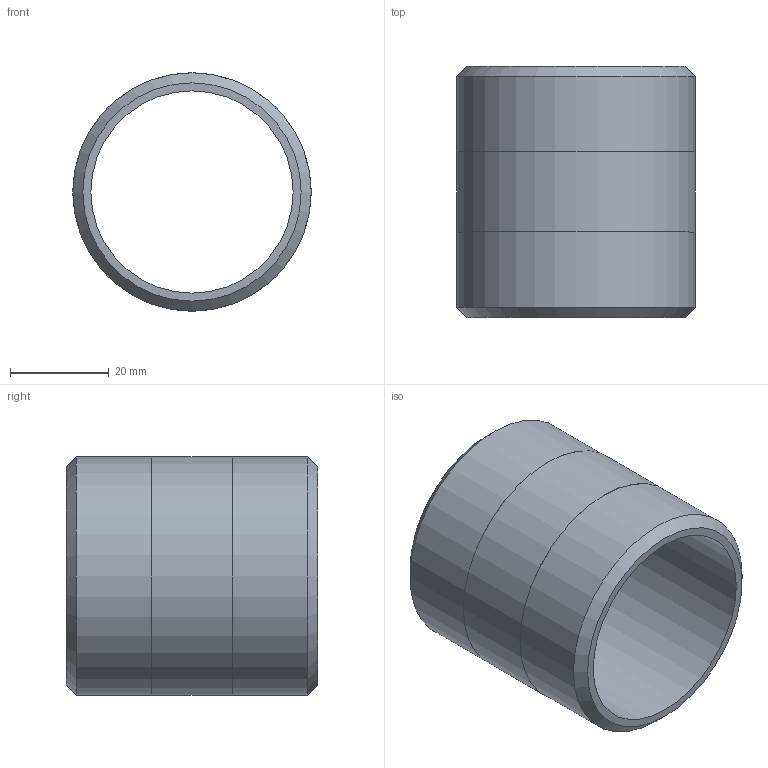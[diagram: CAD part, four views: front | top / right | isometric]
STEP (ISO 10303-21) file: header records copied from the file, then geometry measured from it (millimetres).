
FILE_DESCRIPTION(/* description */ (''),/* implementation_level */ '2;1');
FILE_NAME(/* name */ 'C:/Users/drich/Desktop/SSPN1-1_2-2 v2.step',/* time_stamp */ '2020-01-03T16:18:59-06:00',/* author */ (''),/* organization */ (''),/* preprocessor_version */ 'ST-DEVELOPER v18',/* originating_system */ 'Autodesk Translation Framework v8.12.0.6',/* authorisation */ '');
FILE_SCHEMA (('AUTOMOTIVE_DESIGN { 1 0 10303 214 3 1 1 }'));
Length unit declared in the file: inch
Products named in the file (1): SSPN1-1_2-2
Bounding box: 48.26 x 50.8 x 48.26 mm (x, y, z)
Volume: 25460.6 mm3; surface area: 14883.1 mm2
Topology: 1 solids, 1 shells, 10 faces, 24 edges, 18 vertices
Faces by surface type: cylinder 4, plane 4, cone 2
Full cylindrical faces by diameter (mm): 40.894 x1, 48.209 x2, 48.26 x1
Entity records: 353 total; most frequent: DIRECTION 64, CARTESIAN_POINT 53, ORIENTED_EDGE 48, AXIS2_PLACEMENT_3D 29, EDGE_CURVE 24, CIRCLE 18, VERTEX_POINT 18, EDGE_LOOP 14
